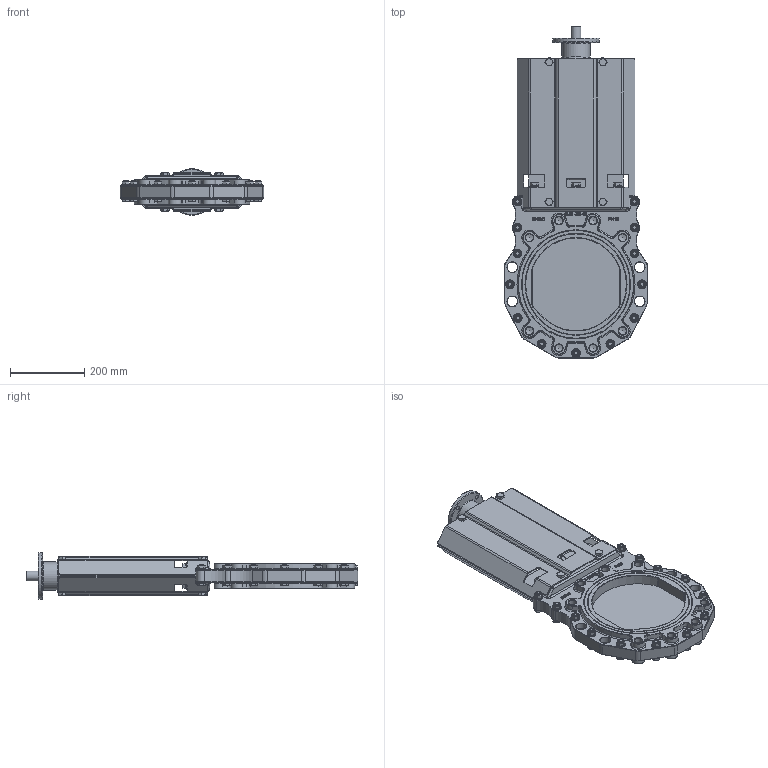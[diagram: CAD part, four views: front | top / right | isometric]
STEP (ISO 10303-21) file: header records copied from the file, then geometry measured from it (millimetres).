
FILE_DESCRIPTION(/* description */ (''),/* implementation_level */ '2;1');
FILE_NAME(/* name */ 'Rising stem knife gate valve with top flange DN250-16.stp',/* time_stamp */ '2025-04-21T17:20:41+08:00',/* author */ (''),/* organization */ (''),/* preprocessor_version */ 'ST-DEVELOPER v15',/* originating_system */ 'SIEMENS PLM Software NX 10.0',/* authorisation */ '');
FILE_SCHEMA (('AP203_CONFIGURATION_CONTROLLED_3D_DESIGN_OF_MECHANICAL_PARTS_AND_ASSEMBLIES_MIM_LF { 1 0 10303 403 2 1 2}'));
Products named in the file (1): Admi256412D81nz2
Bounding box: 386.9 x 893.78 x 125 mm (x, y, z)
Volume: 7381703.9 mm3; surface area: 1300740.6 mm2
Topology: 1 solids, 35 shells, 2863 faces, 6942 edges, 4309 vertices
Faces by surface type: plane 1094, cylinder 718, cone 299, extrusion 260, torus 256, bspline 212, sphere 24
Full cylindrical faces by diameter (mm): 2 x4, 5.2 x1, 10.106 x8, 10.5 x2, 11.053 x19, 11.5 x4, 12 x32, 13 x36, 17.2 x21, 18 x2, 20 x6, 20.752 x16, 24 x32, 25 x1, 26 x1, 28 x8, 40 x1, 66 x1, 73 x1, 76 x1, 125 x1
Entity records: 87254 total; most frequent: CARTESIAN_POINT 24627, ORIENTED_EDGE 12846, DIRECTION 11802, EDGE_CURVE 6423, AXIS2_PLACEMENT_3D 4414, VERTEX_POINT 4219, EDGE_LOOP 3560, VECTOR 2974
